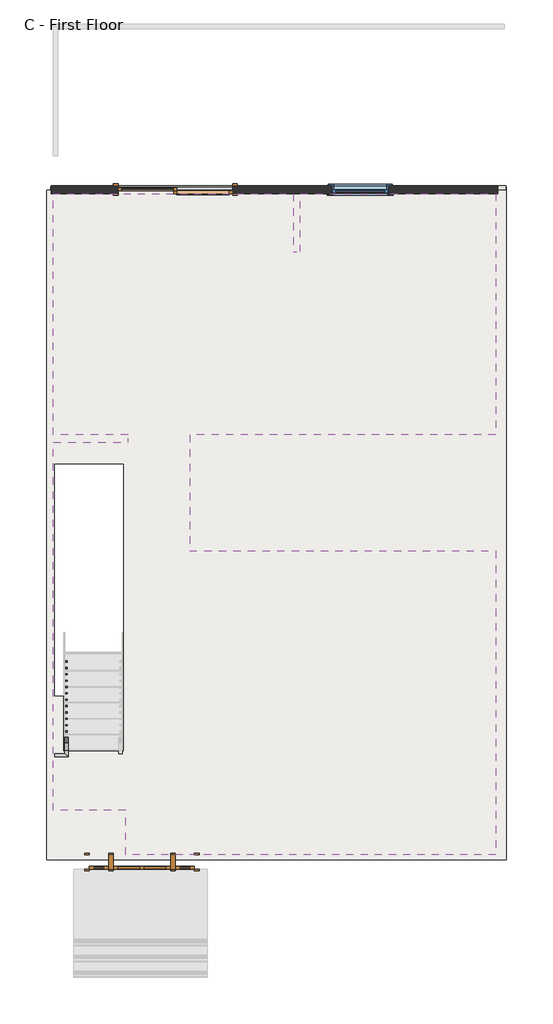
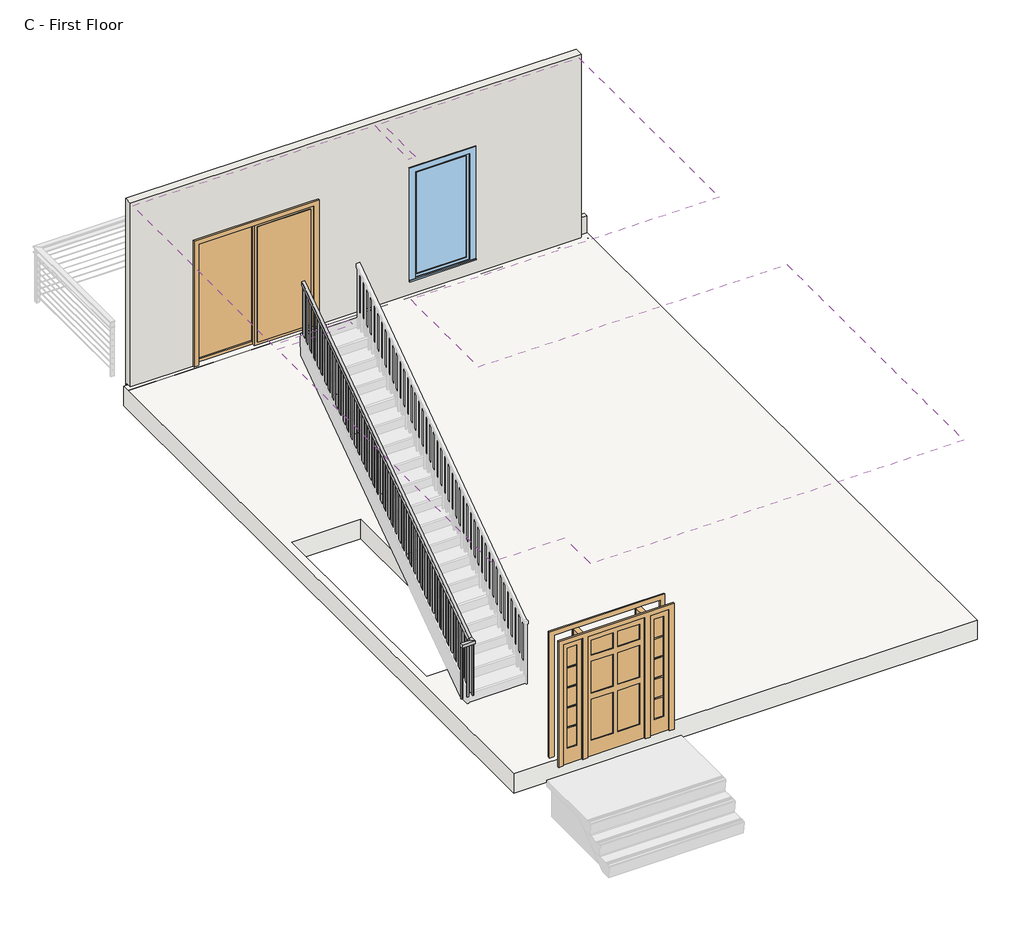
# One storey, part 1 of 2: 2 beams, 2 doors, 1 covering, 1 railing, 1 slab, 1 wall, 1 window.
"""IFC4 building model written with IfcOpenShell, lengths in millimetres."""

from ifc_helpers import new_model, si_unit, frame, origin, place, context, project, spatial, polyline, outline, extrude, faceted_brep, transform, mapped, element, save
from components import w_wide_flange_w8x24_5daaecee, w_wide_flange_w8x24_1566cf3c, door_cdccc48c, door_ba367ff0, window_19b24cb0

model = new_model("IFC4")

# Units and contexts
model_context = context("Model", 3, world=origin())
ifc_project = project(units=[si_unit("LENGTHUNIT", "METRE", prefix="MILLI")], contexts=[model_context])

# Site, building, storey
site = spatial("IfcSite", under=ifc_project)
building = spatial("IfcBuilding", under=site)
storey = spatial("IfcBuildingStorey", under=building, Name="C - First Floor", Elevation=1219.2)

# Beams
placement = place(None, origin())
w_wide_flange_w8x24_shape = w_wide_flange_w8x24_5daaecee(model_context)
element("IfcBeam", 1, ObjectType="W-Wide Flange : W8X24", at=placement, inside=storey, context=model_context, shape_type="MappedRepresentation", body=[
    mapped(w_wide_flange_w8x24_shape, transform((8784.1120514, 3462.6960538, 1061.339), x_axis=(1.0, 0.0, 0.0), y_axis=(0.0, 1.0, 0.0), z_axis=(0.0, 0.0, 1.0))),
])
w_wide_flange_w8x24_2_shape = w_wide_flange_w8x24_1566cf3c(model_context)
element("IfcBeam", 2, ObjectType="W-Wide Flange : W8X24", at=placement, inside=storey, context=model_context, shape_type="MappedRepresentation", body=[
    mapped(w_wide_flange_w8x24_2_shape, transform((5145.5620514, 3462.6960538, 1061.339), x_axis=(1.0, 0.0, 0.0), y_axis=(0.0, 1.0, 0.0), z_axis=(0.0, 0.0, 1.0))),
])

# Covering
element("IfcCovering", 3, ObjectType="GWB on Furring", at=placement, inside=storey, context=model_context, shape_type="SweptSolid", body=[
    extrude(outline(polyline([(5542.4370514, -2271.3539462), (10428.7620514, -2271.3539462), (10428.7620514, -7122.7539462), (4520.0870514, -7122.7539462), (4520.0870514, -6411.5539462), (3364.3870514, -6411.5539462), (3364.3870514, -531.4539462), (4561.3620514, -531.4539462), (4561.3620514, -417.1539462), (3364.3870514, -417.1539462), (3364.3870514, 3430.9460538), (7193.4370514, 3430.9460538), (7193.4370514, 2503.8460538), (7307.7370514, 2503.8460538), (7307.7370514, 3430.9460538), (10428.7620514, 3430.9460538), (10428.7620514, -417.1539462), (5542.4370514, -417.1539462), (5542.4370514, -2271.3539462)]), holes=[polyline([(3389.7870514, -4582.7539462), (4481.9870514, -4582.7539462), (4481.9870514, -887.0539462), (3389.7870514, -887.0539462), (3389.7870514, -4582.7539462)])]), frame((0.0, 0.0, 4241.8), z_axis=(0.0, 0.0, 1.0), x_axis=(1.0, 0.0, 0.0)), (0.0, 0.0, 1.0), 31.75),
])

# Doors
door_shape = door_cdccc48c(model_context)
element("IfcDoor", 4, ObjectType="Door-Double-Sliding : 72\" x 80\"", at=placement, inside=storey, context=model_context, shape_type="MappedRepresentation", body=[
    mapped(door_shape, transform((5313.8370514, 3624.6210538, 1219.2), x_axis=(-1.0, 0.0, 0.0), y_axis=(0.0, -1.0, 0.0), z_axis=(0.0, 0.0, 1.0))),
])
door_2_shape = door_ba367ff0(model_context)
element("IfcDoor", 5, ObjectType="Single-Raised Panel with Sidelights : 36\" x 80\" 2", at=placement, inside=storey, context=model_context, shape_type="MappedRepresentation", body=[
    mapped(door_2_shape, transform((4780.4370514, -7238.6414462, 1219.2), x_axis=(-1.0, 0.0, 0.0), y_axis=(0.0, -1.0, 0.0), z_axis=(0.0, 0.0, 1.0))),
])

# Railing
element("IfcRailing", 6, ObjectType="Handrail - Rectangular", at=placement, inside=storey, context=model_context, shape_type="SolidModel", body=[
    faceted_brep([(3389.7870514, -5509.8539462, 2330.1157895), (3389.7870514, -5509.8539462, 2279.3157895), (3389.7870514, -5560.6539462, 2279.3157895), (3389.7870514, -5560.6539462, 2330.1157895), (3548.5370514, -5509.8539462, 2330.1157895), (3548.5370514, -5509.8539462, 2279.3157895), (3599.3370514, -5560.6539462, 2279.3157895), (3599.3370514, -5560.6539462, 2330.1157895), (3548.5370514, -5459.0539462, 2330.1157895), (3548.5370514, -5443.0653277, 2279.3157895), (3599.3370514, -5443.0653277, 2279.3157895), (3599.3370514, -5459.0539462, 2330.1157895), (3548.5370514, -887.0539462, 5524.5), (3599.3370514, -887.0539462, 5524.5), (3599.3370514, -887.0539462, 5462.5290047), (3548.5370514, -887.0539462, 5462.5290047)], [[[0, 1, 2, 3]], [[1, 0, 4, 5]], [[2, 1, 5, 6]], [[3, 2, 6, 7]], [[0, 3, 7, 4]], [[5, 4, 8, 9]], [[6, 5, 9, 10]], [[7, 6, 10, 11]], [[4, 7, 11, 8]], [[12, 13, 14, 15]], [[9, 8, 12, 15]], [[10, 9, 15, 14]], [[11, 10, 14, 13]], [[8, 11, 13, 12]]]),
    extrude(outline(polyline([(-979.1289462, 5398.197656), (-979.1289462, 4432.6342105), (-998.1789462, 4432.6342105), (-998.1789462, 5384.8877218), (-979.1289462, 5398.197656)])), frame((3564.4120514, 0.0, 0.0), z_axis=(1.0, 0.0, 0.0), x_axis=(0.0, 1.0, 0.0)), (0.0, 0.0, 1.0), 19.05),
    extrude(outline(polyline([(-1080.7289462, 5327.2113402), (-1080.7289462, 4432.6342105), (-1099.7789462, 4432.6342105), (-1099.7789462, 5313.901406), (-1080.7289462, 5327.2113402)])), frame((3564.4120514, 0.0, 0.0), z_axis=(1.0, 0.0, 0.0), x_axis=(0.0, 1.0, 0.0)), (0.0, 0.0, 1.0), 19.05),
    extrude(outline(polyline([(-1182.3289462, 5256.2250244), (-1182.3289462, 4255.1684211), (-1201.3789462, 4255.1684211), (-1201.3789462, 5242.9150902), (-1182.3289462, 5256.2250244)])), frame((3564.4120514, 0.0, 0.0), z_axis=(1.0, 0.0, 0.0), x_axis=(0.0, 1.0, 0.0)), (0.0, 0.0, 1.0), 19.05),
    extrude(outline(polyline([(-1283.9289462, 5185.2387087), (-1283.9289462, 4255.1684211), (-1302.9789462, 4255.1684211), (-1302.9789462, 5171.9287744), (-1283.9289462, 5185.2387087)])), frame((3564.4120514, 0.0, 0.0), z_axis=(1.0, 0.0, 0.0), x_axis=(0.0, 1.0, 0.0)), (0.0, 0.0, 1.0), 19.05),
    extrude(outline(polyline([(-1385.5289462, 5114.2523929), (-1385.5289462, 4255.1684211), (-1404.5789462, 4255.1684211), (-1404.5789462, 5100.9424587), (-1385.5289462, 5114.2523929)])), frame((3564.4120514, 0.0, 0.0), z_axis=(1.0, 0.0, 0.0), x_axis=(0.0, 1.0, 0.0)), (0.0, 0.0, 1.0), 19.05),
    extrude(outline(polyline([(-1487.1289462, 5043.2660771), (-1487.1289462, 4077.7026316), (-1506.1789462, 4077.7026316), (-1506.1789462, 5029.9561429), (-1487.1289462, 5043.2660771)])), frame((3564.4120514, 0.0, 0.0), z_axis=(1.0, 0.0, 0.0), x_axis=(0.0, 1.0, 0.0)), (0.0, 0.0, 1.0), 19.05),
    extrude(outline(polyline([(-1588.7289462, 4972.2797613), (-1588.7289462, 4077.7026316), (-1607.7789462, 4077.7026316), (-1607.7789462, 4958.9698271), (-1588.7289462, 4972.2797613)])), frame((3564.4120514, 0.0, 0.0), z_axis=(1.0, 0.0, 0.0), x_axis=(0.0, 1.0, 0.0)), (0.0, 0.0, 1.0), 19.05),
    extrude(outline(polyline([(-1690.3289462, 4901.2934455), (-1690.3289462, 3900.2368421), (-1709.3789462, 3900.2368421), (-1709.3789462, 4887.9835113), (-1690.3289462, 4901.2934455)])), frame((3564.4120514, 0.0, 0.0), z_axis=(1.0, 0.0, 0.0), x_axis=(0.0, 1.0, 0.0)), (0.0, 0.0, 1.0), 19.05),
    extrude(outline(polyline([(-1791.9289462, 4830.3071297), (-1791.9289462, 3900.2368421), (-1810.9789462, 3900.2368421), (-1810.9789462, 4816.9971955), (-1791.9289462, 4830.3071297)])), frame((3564.4120514, 0.0, 0.0), z_axis=(1.0, 0.0, 0.0), x_axis=(0.0, 1.0, 0.0)), (0.0, 0.0, 1.0), 19.05),
    extrude(outline(polyline([(-1893.5289462, 4759.3208139), (-1893.5289462, 3900.2368421), (-1912.5789462, 3900.2368421), (-1912.5789462, 4746.0108797), (-1893.5289462, 4759.3208139)])), frame((3564.4120514, 0.0, 0.0), z_axis=(1.0, 0.0, 0.0), x_axis=(0.0, 1.0, 0.0)), (0.0, 0.0, 1.0), 19.05),
    extrude(outline(polyline([(-1995.1289462, 4688.3344981), (-1995.1289462, 3722.7710526), (-2014.1789462, 3722.7710526), (-2014.1789462, 4675.0245639), (-1995.1289462, 4688.3344981)])), frame((3564.4120514, 0.0, 0.0), z_axis=(1.0, 0.0, 0.0), x_axis=(0.0, 1.0, 0.0)), (0.0, 0.0, 1.0), 19.05),
    extrude(outline(polyline([(-2096.7289462, 4617.3481823), (-2096.7289462, 3722.7710526), (-2115.7789462, 3722.7710526), (-2115.7789462, 4604.0382481), (-2096.7289462, 4617.3481823)])), frame((3564.4120514, 0.0, 0.0), z_axis=(1.0, 0.0, 0.0), x_axis=(0.0, 1.0, 0.0)), (0.0, 0.0, 1.0), 19.05),
    extrude(outline(polyline([(-2198.3289462, 4546.3618666), (-2198.3289462, 3545.3052632), (-2217.3789462, 3545.3052632), (-2217.3789462, 4533.0519323), (-2198.3289462, 4546.3618666)])), frame((3564.4120514, 0.0, 0.0), z_axis=(1.0, 0.0, 0.0), x_axis=(0.0, 1.0, 0.0)), (0.0, 0.0, 1.0), 19.05),
    extrude(outline(polyline([(-2299.9289462, 4475.3755508), (-2299.9289462, 3545.3052632), (-2318.9789462, 3545.3052632), (-2318.9789462, 4462.0656166), (-2299.9289462, 4475.3755508)])), frame((3564.4120514, 0.0, 0.0), z_axis=(1.0, 0.0, 0.0), x_axis=(0.0, 1.0, 0.0)), (0.0, 0.0, 1.0), 19.05),
    extrude(outline(polyline([(-2401.5289462, 4404.389235), (-2401.5289462, 3545.3052632), (-2420.5789462, 3545.3052632), (-2420.5789462, 4391.0793008), (-2401.5289462, 4404.389235)])), frame((3564.4120514, 0.0, 0.0), z_axis=(1.0, 0.0, 0.0), x_axis=(0.0, 1.0, 0.0)), (0.0, 0.0, 1.0), 19.05),
    extrude(outline(polyline([(-2503.1289462, 4333.4029192), (-2503.1289462, 3367.8394737), (-2522.1789462, 3367.8394737), (-2522.1789462, 4320.092985), (-2503.1289462, 4333.4029192)])), frame((3564.4120514, 0.0, 0.0), z_axis=(1.0, 0.0, 0.0), x_axis=(0.0, 1.0, 0.0)), (0.0, 0.0, 1.0), 19.05),
    extrude(outline(polyline([(-2604.7289462, 4262.4166034), (-2604.7289462, 3367.8394737), (-2623.7789462, 3367.8394737), (-2623.7789462, 4249.1066692), (-2604.7289462, 4262.4166034)])), frame((3564.4120514, 0.0, 0.0), z_axis=(1.0, 0.0, 0.0), x_axis=(0.0, 1.0, 0.0)), (0.0, 0.0, 1.0), 19.05),
    extrude(outline(polyline([(-2706.3289462, 4191.4302876), (-2706.3289462, 3190.3736842), (-2725.3789462, 3190.3736842), (-2725.3789462, 4178.1203534), (-2706.3289462, 4191.4302876)])), frame((3564.4120514, 0.0, 0.0), z_axis=(1.0, 0.0, 0.0), x_axis=(0.0, 1.0, 0.0)), (0.0, 0.0, 1.0), 19.05),
    extrude(outline(polyline([(-2807.9289462, 4120.4439718), (-2807.9289462, 3190.3736842), (-2826.9789462, 3190.3736842), (-2826.9789462, 4107.1340376), (-2807.9289462, 4120.4439718)])), frame((3564.4120514, 0.0, 0.0), z_axis=(1.0, 0.0, 0.0), x_axis=(0.0, 1.0, 0.0)), (0.0, 0.0, 1.0), 19.05),
    extrude(outline(polyline([(-2909.5289462, 4049.457656), (-2909.5289462, 3190.3736842), (-2928.5789462, 3190.3736842), (-2928.5789462, 4036.1477218), (-2909.5289462, 4049.457656)])), frame((3564.4120514, 0.0, 0.0), z_axis=(1.0, 0.0, 0.0), x_axis=(0.0, 1.0, 0.0)), (0.0, 0.0, 1.0), 19.05),
    extrude(outline(polyline([(-3011.1289462, 3978.4713402), (-3011.1289462, 3012.9078947), (-3030.1789462, 3012.9078947), (-3030.1789462, 3965.161406), (-3011.1289462, 3978.4713402)])), frame((3564.4120514, 0.0, 0.0), z_axis=(1.0, 0.0, 0.0), x_axis=(0.0, 1.0, 0.0)), (0.0, 0.0, 1.0), 19.05),
    extrude(outline(polyline([(-3112.7289462, 3907.4850244), (-3112.7289462, 3012.9078947), (-3131.7789462, 3012.9078947), (-3131.7789462, 3894.1750902), (-3112.7289462, 3907.4850244)])), frame((3564.4120514, 0.0, 0.0), z_axis=(1.0, 0.0, 0.0), x_axis=(0.0, 1.0, 0.0)), (0.0, 0.0, 1.0), 19.05),
    extrude(outline(polyline([(-3214.3289462, 3836.4987087), (-3214.3289462, 2835.4421053), (-3233.3789462, 2835.4421053), (-3233.3789462, 3823.1887744), (-3214.3289462, 3836.4987087)])), frame((3564.4120514, 0.0, 0.0), z_axis=(1.0, 0.0, 0.0), x_axis=(0.0, 1.0, 0.0)), (0.0, 0.0, 1.0), 19.05),
    extrude(outline(polyline([(-3315.9289462, 3765.5123929), (-3315.9289462, 2835.4421053), (-3334.9789462, 2835.4421053), (-3334.9789462, 3752.2024587), (-3315.9289462, 3765.5123929)])), frame((3564.4120514, 0.0, 0.0), z_axis=(1.0, 0.0, 0.0), x_axis=(0.0, 1.0, 0.0)), (0.0, 0.0, 1.0), 19.05),
    extrude(outline(polyline([(-3417.5289462, 3694.5260771), (-3417.5289462, 2835.4421053), (-3436.5789462, 2835.4421053), (-3436.5789462, 3681.2161429), (-3417.5289462, 3694.5260771)])), frame((3564.4120514, 0.0, 0.0), z_axis=(1.0, 0.0, 0.0), x_axis=(0.0, 1.0, 0.0)), (0.0, 0.0, 1.0), 19.05),
    extrude(outline(polyline([(-3519.1289462, 3623.5397613), (-3519.1289462, 2657.9763158), (-3538.1789462, 2657.9763158), (-3538.1789462, 3610.2298271), (-3519.1289462, 3623.5397613)])), frame((3564.4120514, 0.0, 0.0), z_axis=(1.0, 0.0, 0.0), x_axis=(0.0, 1.0, 0.0)), (0.0, 0.0, 1.0), 19.05),
    extrude(outline(polyline([(-3620.7289462, 3552.5534455), (-3620.7289462, 2657.9763158), (-3639.7789462, 2657.9763158), (-3639.7789462, 3539.2435113), (-3620.7289462, 3552.5534455)])), frame((3564.4120514, 0.0, 0.0), z_axis=(1.0, 0.0, 0.0), x_axis=(0.0, 1.0, 0.0)), (0.0, 0.0, 1.0), 19.05),
    extrude(outline(polyline([(-3722.3289462, 3481.5671297), (-3722.3289462, 2480.5105263), (-3741.3789462, 2480.5105263), (-3741.3789462, 3468.2571955), (-3722.3289462, 3481.5671297)])), frame((3564.4120514, 0.0, 0.0), z_axis=(1.0, 0.0, 0.0), x_axis=(0.0, 1.0, 0.0)), (0.0, 0.0, 1.0), 19.05),
    extrude(outline(polyline([(-3823.9289462, 3410.5808139), (-3823.9289462, 2480.5105263), (-3842.9789462, 2480.5105263), (-3842.9789462, 3397.2708797), (-3823.9289462, 3410.5808139)])), frame((3564.4120514, 0.0, 0.0), z_axis=(1.0, 0.0, 0.0), x_axis=(0.0, 1.0, 0.0)), (0.0, 0.0, 1.0), 19.05),
    extrude(outline(polyline([(-3925.5289462, 3339.5944981), (-3925.5289462, 2480.5105263), (-3944.5789462, 2480.5105263), (-3944.5789462, 3326.2845639), (-3925.5289462, 3339.5944981)])), frame((3564.4120514, 0.0, 0.0), z_axis=(1.0, 0.0, 0.0), x_axis=(0.0, 1.0, 0.0)), (0.0, 0.0, 1.0), 19.05),
    extrude(outline(polyline([(-4027.1289462, 3268.6081823), (-4027.1289462, 2303.0447368), (-4046.1789462, 2303.0447368), (-4046.1789462, 3255.2982481), (-4027.1289462, 3268.6081823)])), frame((3564.4120514, 0.0, 0.0), z_axis=(1.0, 0.0, 0.0), x_axis=(0.0, 1.0, 0.0)), (0.0, 0.0, 1.0), 19.05),
    extrude(outline(polyline([(-4128.7289462, 3197.6218666), (-4128.7289462, 2303.0447368), (-4147.7789462, 2303.0447368), (-4147.7789462, 3184.3119323), (-4128.7289462, 3197.6218666)])), frame((3564.4120514, 0.0, 0.0), z_axis=(1.0, 0.0, 0.0), x_axis=(0.0, 1.0, 0.0)), (0.0, 0.0, 1.0), 19.05),
    extrude(outline(polyline([(-4230.3289462, 3126.6355508), (-4230.3289462, 2125.5789474), (-4249.3789462, 2125.5789474), (-4249.3789462, 3113.3256166), (-4230.3289462, 3126.6355508)])), frame((3564.4120514, 0.0, 0.0), z_axis=(1.0, 0.0, 0.0), x_axis=(0.0, 1.0, 0.0)), (0.0, 0.0, 1.0), 19.05),
    extrude(outline(polyline([(-4331.9289462, 3055.649235), (-4331.9289462, 2125.5789474), (-4350.9789462, 2125.5789474), (-4350.9789462, 3042.3393008), (-4331.9289462, 3055.649235)])), frame((3564.4120514, 0.0, 0.0), z_axis=(1.0, 0.0, 0.0), x_axis=(0.0, 1.0, 0.0)), (0.0, 0.0, 1.0), 19.05),
    extrude(outline(polyline([(-4433.5289462, 2984.6629192), (-4433.5289462, 2125.5789474), (-4452.5789462, 2125.5789474), (-4452.5789462, 2971.352985), (-4433.5289462, 2984.6629192)])), frame((3564.4120514, 0.0, 0.0), z_axis=(1.0, 0.0, 0.0), x_axis=(0.0, 1.0, 0.0)), (0.0, 0.0, 1.0), 19.05),
    extrude(outline(polyline([(-4535.1289462, 2913.6766034), (-4535.1289462, 1948.1131579), (-4554.1789462, 1948.1131579), (-4554.1789462, 2900.3666692), (-4535.1289462, 2913.6766034)])), frame((3564.4120514, 0.0, 0.0), z_axis=(1.0, 0.0, 0.0), x_axis=(0.0, 1.0, 0.0)), (0.0, 0.0, 1.0), 19.05),
    extrude(outline(polyline([(-4636.7289462, 2842.6902876), (-4636.7289462, 1948.1131579), (-4655.7789462, 1948.1131579), (-4655.7789462, 2829.3803534), (-4636.7289462, 2842.6902876)])), frame((3564.4120514, 0.0, 0.0), z_axis=(1.0, 0.0, 0.0), x_axis=(0.0, 1.0, 0.0)), (0.0, 0.0, 1.0), 19.05),
    extrude(outline(polyline([(-4738.3289462, 2771.7039718), (-4738.3289462, 1770.6473684), (-4757.3789462, 1770.6473684), (-4757.3789462, 2758.3940376), (-4738.3289462, 2771.7039718)])), frame((3564.4120514, 0.0, 0.0), z_axis=(1.0, 0.0, 0.0), x_axis=(0.0, 1.0, 0.0)), (0.0, 0.0, 1.0), 19.05),
    extrude(outline(polyline([(-4839.9289462, 2700.717656), (-4839.9289462, 1770.6473684), (-4858.9789462, 1770.6473684), (-4858.9789462, 2687.4077218), (-4839.9289462, 2700.717656)])), frame((3564.4120514, 0.0, 0.0), z_axis=(1.0, 0.0, 0.0), x_axis=(0.0, 1.0, 0.0)), (0.0, 0.0, 1.0), 19.05),
    extrude(outline(polyline([(-4941.5289462, 2629.7313402), (-4941.5289462, 1770.6473684), (-4960.5789462, 1770.6473684), (-4960.5789462, 2616.421406), (-4941.5289462, 2629.7313402)])), frame((3564.4120514, 0.0, 0.0), z_axis=(1.0, 0.0, 0.0), x_axis=(0.0, 1.0, 0.0)), (0.0, 0.0, 1.0), 19.05),
    extrude(outline(polyline([(-5043.1289462, 2558.7450244), (-5043.1289462, 1593.1815789), (-5062.1789462, 1593.1815789), (-5062.1789462, 2545.4350902), (-5043.1289462, 2558.7450244)])), frame((3564.4120514, 0.0, 0.0), z_axis=(1.0, 0.0, 0.0), x_axis=(0.0, 1.0, 0.0)), (0.0, 0.0, 1.0), 19.05),
    extrude(outline(polyline([(-5144.7289462, 2487.7587087), (-5144.7289462, 1593.1815789), (-5163.7789462, 1593.1815789), (-5163.7789462, 2474.4487744), (-5144.7289462, 2487.7587087)])), frame((3564.4120514, 0.0, 0.0), z_axis=(1.0, 0.0, 0.0), x_axis=(0.0, 1.0, 0.0)), (0.0, 0.0, 1.0), 19.05),
    extrude(outline(polyline([(-5246.3289462, 2416.7723929), (-5246.3289462, 1415.7157895), (-5265.3789462, 1415.7157895), (-5265.3789462, 2403.4624587), (-5246.3289462, 2416.7723929)])), frame((3564.4120514, 0.0, 0.0), z_axis=(1.0, 0.0, 0.0), x_axis=(0.0, 1.0, 0.0)), (0.0, 0.0, 1.0), 19.05),
    extrude(outline(polyline([(-5347.9289462, 2345.7860771), (-5347.9289462, 1415.7157895), (-5366.9789462, 1415.7157895), (-5366.9789462, 2332.4761429), (-5347.9289462, 2345.7860771)])), frame((3564.4120514, 0.0, 0.0), z_axis=(1.0, 0.0, 0.0), x_axis=(0.0, 1.0, 0.0)), (0.0, 0.0, 1.0), 19.05),
    extrude(outline(polyline([(3481.8620514, -5525.7289462), (3500.9120514, -5525.7289462), (3500.9120514, -5544.7789462), (3481.8620514, -5544.7789462), (3481.8620514, -5525.7289462)])), frame((0.0, 0.0, 1415.7157895), z_axis=(0.0, 0.0, 1.0), x_axis=(1.0, 0.0, 0.0)), (0.0, 0.0, 1.0), 863.6),
    extrude(outline(polyline([(3564.4120514, -5468.5789462), (3564.4120514, -5449.5289462), (3583.4620514, -5449.5289462), (3583.4620514, -5468.5789462), (3564.4120514, -5468.5789462)])), frame((0.0, 0.0, 1415.7157895), z_axis=(0.0, 0.0, 1.0), x_axis=(1.0, 0.0, 0.0)), (0.0, 0.0, 1.0), 863.6),
    extrude(outline(polyline([(3564.4120514, -5525.7289462), (3583.4620514, -5525.7289462), (3583.4620514, -5544.7789462), (3564.4120514, -5544.7789462), (3564.4120514, -5525.7289462)])), frame((0.0, 0.0, 1415.7157895), z_axis=(0.0, 0.0, 1.0), x_axis=(1.0, 0.0, 0.0)), (0.0, 0.0, 1.0), 863.6),
    extrude(outline(polyline([(-887.0539462, 5462.5290047), (-887.0539462, 4432.6342105), (-906.1039462, 4432.6342105), (-906.1039462, 5449.2190705), (-887.0539462, 5462.5290047)])), frame((3564.4120514, 0.0, 0.0), z_axis=(1.0, 0.0, 0.0), x_axis=(0.0, 1.0, 0.0)), (0.0, 0.0, 1.0), 19.05),
    extrude(outline(polyline([(3389.7870514, -5525.7289462), (3408.8370514, -5525.7289462), (3408.8370514, -5544.7789462), (3389.7870514, -5544.7789462), (3389.7870514, -5525.7289462)])), frame((0.0, 0.0, 1415.7157895), z_axis=(0.0, 0.0, 1.0), x_axis=(1.0, 0.0, 0.0)), (0.0, 0.0, 1.0), 863.6),
])

# Slab
element("IfcSlab", 7, ObjectType="Wood Truss  Joist 12\"", at=placement, inside=storey, context=model_context, shape_type="SweptSolid", body=[
    extrude(outline(polyline([(10597.0370514, 3488.0960538), (10597.0370514, -7202.1289462), (3256.4370514, -7202.1289462), (3256.4370514, 3488.0960538), (10597.0370514, 3488.0960538)]), holes=[polyline([(3389.7870514, -4582.7539462), (4481.9870514, -4582.7539462), (4481.9870514, -887.0539462), (3389.7870514, -887.0539462), (3389.7870514, -4582.7539462)])]), frame((0.0, 0.0, 898.525), z_axis=(0.0, 0.0, 1.0), x_axis=(1.0, 0.0, 0.0)), (0.0, 0.0, 1.0), 320.675),
])

# Wall
element("IfcWall", 8, ObjectType="Exterior - Wood Siding on Wood Stud", at=placement, inside=storey, context=model_context, shape_type="Brep", body=[
    faceted_brep([(10463.6870514, 3430.9460538, 4292.6), (3329.4620514, 3430.9460538, 4292.6), (3329.4620514, 3430.9460538, 1219.2), (4399.4370514, 3430.9460538, 1219.2), (4399.4370514, 3430.9460538, 3251.2), (6228.2370514, 3430.9460538, 3251.2), (6228.2370514, 3430.9460538, 1219.2), (10463.6870514, 3430.9460538, 1219.2), (10463.6870514, 3430.9460538, 1504.95), (10463.6870514, 3430.9460538, 1828.8), (7807.7995514, 3430.9460538, 1447.8), (7807.7995514, 3430.9460538, 3276.6), (8722.1995514, 3430.9460538, 3276.6), (8722.1995514, 3430.9460538, 1447.8), (3329.4620514, 3564.2960538, 4292.6), (10463.6870514, 3564.2960538, 4292.6), (10463.6870514, 3564.2960538, 1524.0), (10463.6870514, 3564.2960538, 1504.95), (10524.0120514, 3564.2960538, 1504.95), (10590.6870514, 3564.2960538, 1504.95), (10590.6870514, 3564.2960538, 1219.2), (10524.0120514, 3564.2960538, 1219.2), (10524.0120514, 3564.2960538, 914.4), (3329.4620514, 3564.2960538, 914.4), (6228.2370514, 3564.2960538, 1219.2), (6228.2370514, 3564.2960538, 3251.2), (4399.4370514, 3564.2960538, 3251.2), (4399.4370514, 3564.2960538, 1219.2), (7807.7995514, 3564.2960538, 3276.6), (7807.7995514, 3564.2960538, 1447.8), (8722.1995514, 3564.2960538, 1447.8), (8722.1995514, 3564.2960538, 3276.6), (6228.2370514, 3545.2460538, 1219.2), (10524.0120514, 3545.2460538, 1219.2), (10590.6870514, 3497.6210538, 1219.2), (10524.0120514, 3497.6210538, 1219.2), (10463.6870514, 3497.6210538, 1219.2), (3329.4620514, 3545.2460538, 1219.2), (4399.4370514, 3545.2460538, 1219.2), (3329.4620514, 3545.2460538, 914.4), (10524.0120514, 3545.2460538, 914.4), (10463.6870514, 3497.6210538, 1504.95), (10590.6870514, 3497.6210538, 1504.95)], [[[0, 1, 2, 3, 4, 5, 6, 7, 8, 9], [10, 11, 12, 13]], [[14, 15, 16, 17, 18, 19, 20, 21, 22, 23], [24, 25, 26, 27], [28, 29, 30, 31]], [[1, 0, 15, 14]], [[7, 6, 32, 33, 21, 20, 34, 35, 36]], [[2, 37, 38, 3]], [[38, 37, 39, 40, 33, 32]], [[39, 23, 22, 40]], [[5, 25, 24, 32, 6]], [[24, 27, 38, 32]], [[26, 4, 3, 38, 27]], [[25, 5, 4, 26]], [[29, 28, 11, 10]], [[30, 29, 10, 13]], [[31, 30, 13, 12]], [[28, 31, 12, 11]], [[8, 7, 36, 41]], [[15, 0, 9, 8, 41, 17, 16]], [[42, 19, 18, 17, 41]], [[42, 41, 36, 35, 34]], [[19, 42, 34, 20]], [[1, 14, 23, 39, 37, 2]], [[21, 33, 40, 22]]]),
])

# Window
window_shape = window_19b24cb0(model_context)
element("IfcWindow", 9, ObjectType="Fixed with Trim : 36\" x 72\"", at=placement, inside=storey, context=model_context, shape_type="MappedRepresentation", body=[
    mapped(window_shape, transform((8226.8995514, 3497.6210538, 1143.0), x_axis=(-1.0, 0.0, 0.0), y_axis=(0.0, -1.0, 0.0), z_axis=(0.0, 0.0, 1.0))),
])

save(model, "model.ifc")
